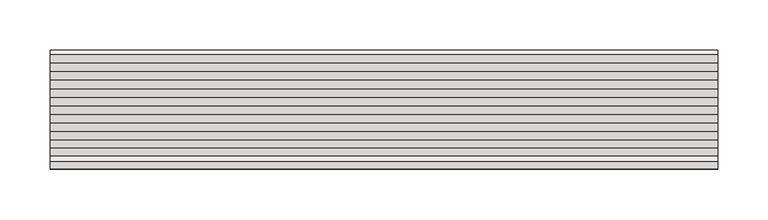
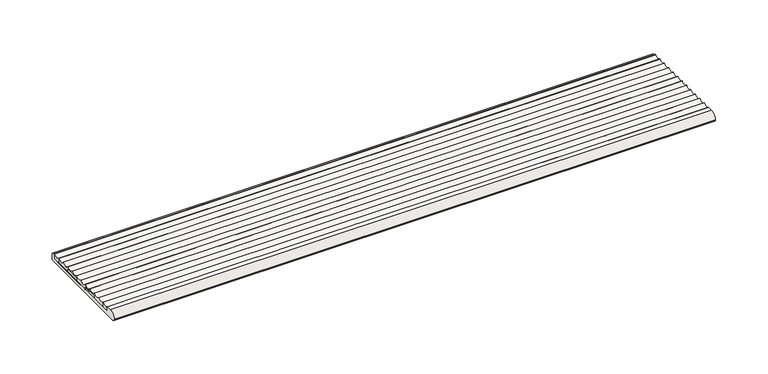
"""IFC4 building model written with IfcOpenShell, lengths in millimetres: slab geometry, ROSA GRES_003 : Pieza 003_Aqua_Marino_Anti-Slip."""

from ifc_helpers import new_model, si_unit, point, frame, frame_2d, origin, place, context, project, spatial, polyline, circle_curve, trimmed, segment, composite_curve, outline, extrude, source, transform, mapped, element, save


def slab_a6fb8cdb(model_context):
    return source(origin(), model_context, "Body", "SweptSolid", [
        extrude(outline(composite_curve([segment(polyline([(7.6419163, 9.4971975), (13.1748183, 9.4971975), (13.1748183, 4.0921512), (114.6668888, 4.0921512), (114.6668888, 10.0184612)]), True, "CONTINUOUS"), segment(trimmed(circle_curve(frame_2d((118.9168888, 13.6516438)), 5.5912893), [point((114.6668888, 10.0184612))], [point((118.9168888, 8.0603545))], True, "CARTESIAN"), True, "CONTINUOUS"), segment(polyline([(118.9168888, 8.0603545), (118.9168888, 0.0), (1.8518481, 0.0), (0.5422562, 1.309592)]), True, "CONTINUOUS"), segment(trimmed(circle_curve(frame_2d((1.9104791, 2.6778148)), 1.9349594), [point((0.5422562, 1.309592))], [point((0.0, 2.9846331))], False, "CARTESIAN"), True, "CONTINUOUS"), segment(trimmed(circle_curve(frame_2d((7.6419163, 1.7573601)), 7.7398374), [point((0.0, 2.9846331))], [point((7.6419163, 9.4971975))], False, "CARTESIAN"), True, "CONTINUOUS")], self_intersect=False)), frame((0.0, 0.0, 0.0), z_axis=(1.0, 0.0, 0.0), x_axis=(0.0, 1.0, 0.0)), (0.0, 0.0, 1.0), 665.7005795),
        extrude(outline(composite_curve([segment(trimmed(circle_curve(frame_2d((110.4168888, 13.6516438)), 5.5912893), [point((106.1668888, 10.0184612))], [point((114.6668888, 10.0184612))], True, "CARTESIAN"), True, "CONTINUOUS"), segment(polyline([(114.6668888, 10.0184612), (114.6668888, 4.0921512), (106.1668888, 4.0921512), (106.1668888, 10.0184612)]), True, "CONTINUOUS")], self_intersect=False)), frame((0.0, 0.0, 0.0), z_axis=(1.0, 0.0, 0.0), x_axis=(0.0, 1.0, 0.0)), (0.0, 0.0, 1.0), 665.7005795),
        extrude(outline(polyline([(665.7005795, 89.1668888), (665.7005795, 72.1668888), (0.0, 72.1668888), (0.0, 89.1668888), (665.7005795, 89.1668888)])), frame((0.0, 0.0, 4.0921512), z_axis=(0.0, 0.0, 1.0), x_axis=(1.0, 0.0, 0.0)), (0.0, 0.0, 1.0), 2.92631),
        extrude(outline(polyline([(665.7005795, 55.1668888), (665.7005795, 38.1668888), (0.0, 38.1668888), (0.0, 55.1668888), (665.7005795, 55.1668888)])), frame((0.0, 0.0, 4.0921512), z_axis=(0.0, 0.0, 1.0), x_axis=(1.0, 0.0, 0.0)), (0.0, 0.0, 1.0), 2.92631),
        extrude(outline(composite_curve([segment(trimmed(circle_curve(frame_2d((16.9168888, 13.6516438)), 5.5912893), [point((13.1748183, 9.4971975))], [point((21.1668888, 10.0184612))], True, "CARTESIAN"), True, "CONTINUOUS"), segment(polyline([(21.1668888, 10.0184612), (21.1668888, 4.0921512), (13.1748183, 4.0921512), (13.1748183, 9.4971975)]), True, "CONTINUOUS")], self_intersect=False)), frame((0.0, 0.0, 0.0), z_axis=(1.0, 0.0, 0.0), x_axis=(0.0, 1.0, 0.0)), (0.0, 0.0, 1.0), 665.7005795),
        extrude(outline(composite_curve([segment(trimmed(circle_curve(frame_2d((25.4168888, 13.6553338)), 5.5912893), [point((21.1668888, 10.0221512))], [point((29.6668888, 10.0221512))], True, "CARTESIAN"), True, "CONTINUOUS"), segment(trimmed(circle_curve(frame_2d((33.9168888, 13.6553338)), 5.5912893), [point((29.6668888, 10.0221512))], [point((38.1668888, 10.0221512))], True, "CARTESIAN"), True, "CONTINUOUS"), segment(trimmed(circle_curve(frame_2d((42.4168888, 13.6553338)), 5.5912893), [point((38.1668888, 10.0221512))], [point((46.6668888, 10.0221512))], True, "CARTESIAN"), True, "CONTINUOUS"), segment(trimmed(circle_curve(frame_2d((50.9168888, 13.6553338)), 5.5912893), [point((46.6668888, 10.0221512))], [point((55.1668888, 10.0221512))], True, "CARTESIAN"), True, "CONTINUOUS"), segment(trimmed(circle_curve(frame_2d((59.4168888, 13.6553338)), 5.5912893), [point((55.1668888, 10.0221512))], [point((63.6668888, 10.0221512))], True, "CARTESIAN"), True, "CONTINUOUS"), segment(trimmed(circle_curve(frame_2d((67.9168888, 13.6553338)), 5.5912893), [point((63.6668888, 10.0221512))], [point((72.1668888, 10.0221512))], True, "CARTESIAN"), True, "CONTINUOUS"), segment(trimmed(circle_curve(frame_2d((76.4168888, 13.6553338)), 5.5912893), [point((72.1668888, 10.0221512))], [point((80.6668888, 10.0221512))], True, "CARTESIAN"), True, "CONTINUOUS"), segment(trimmed(circle_curve(frame_2d((84.9168888, 13.6553338)), 5.5912893), [point((80.6668888, 10.0221512))], [point((89.1668888, 10.0221512))], True, "CARTESIAN"), True, "CONTINUOUS"), segment(trimmed(circle_curve(frame_2d((93.4168888, 13.6553338)), 5.5912893), [point((89.1668888, 10.0221512))], [point((97.6668888, 10.0221512))], True, "CARTESIAN"), True, "CONTINUOUS"), segment(trimmed(circle_curve(frame_2d((101.9168888, 13.6553338)), 5.5912893), [point((97.6668888, 10.0221512))], [point((106.1668888, 10.0221512))], True, "CARTESIAN"), True, "CONTINUOUS"), segment(polyline([(106.1668888, 10.0221512), (106.1668888, 4.0921512), (89.1668888, 4.0921512), (89.1668888, 7.0184612), (72.1668888, 7.0184612), (72.1668888, 4.0921512), (55.1668888, 4.0921512), (55.1668888, 7.0184612), (38.1668888, 7.0184612), (38.1668888, 4.0921512), (21.1668888, 4.0921512), (21.1668888, 10.0221512)]), True, "CONTINUOUS")], self_intersect=False)), frame((0.0, 0.0, 0.0), z_axis=(1.0, 0.0, 0.0), x_axis=(0.0, 1.0, 0.0)), (0.0, 0.0, 1.0), 665.7005795),
    ])


if __name__ == "__main__":
    model = new_model("IFC4")
    model_context = context("Model", 3, world=origin())
    ifc_project = project(units=[si_unit("LENGTHUNIT", "METRE", prefix="MILLI")], contexts=[model_context])
    site = spatial("IfcSite", under=ifc_project)
    building = spatial("IfcBuilding", under=site)
    placement = place(None, origin())
    slab_shape = slab_a6fb8cdb(model_context)
    element("IfcSlab", 1, ObjectType="ROSA GRES_003 : Pieza 003_Aqua_Marino_Anti-Slip", at=placement, inside=building, context=model_context, shape_type="MappedRepresentation", body=[
        mapped(slab_shape, transform((0.0, 0.0, 0.0), x_axis=(1.0, 0.0, 0.0), y_axis=(0.0, 1.0, 0.0), z_axis=(0.0, 0.0, 1.0))),
    ])
    save(model, "model.ifc")
